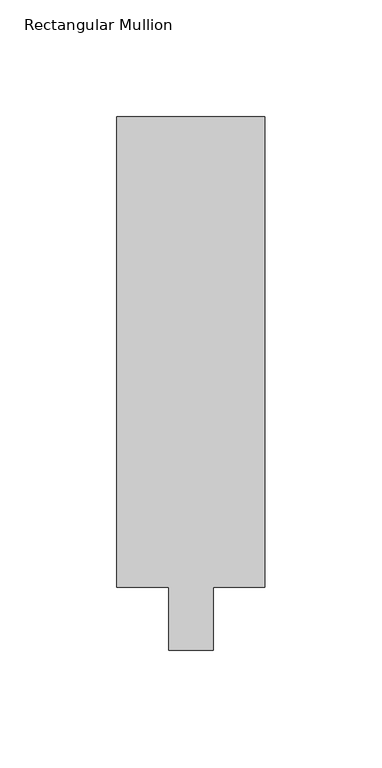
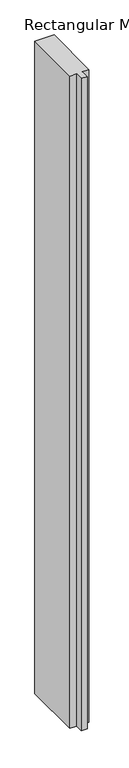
"""IFC4 building model written with IfcOpenShell, lengths in millimetres: member geometry."""

from ifc_helpers import new_model, si_unit, frame, origin, place, context, project, spatial, polyline, outline, extrude, source, transform, mapped, element, save


def rectangular_mullion_25797d0b(model_context):
    return source(origin(), model_context, "Body", "SweptSolid", [
        extrude(outline(polyline([(0.0, 228.6), (0.0, 26.9875), (-22.225, 26.9875), (-22.225, 0.0), (-41.275, 0.0), (-41.275, 26.9875), (-63.5, 26.9875), (-63.5, 228.6), (0.0, 228.6)])), frame((0.0, 0.0, -2294.1624442), z_axis=(0.0, 0.0, 1.0), x_axis=(1.0, 0.0, 0.0)), (0.0, 0.0, 1.0), 2294.1624442),
    ])


if __name__ == "__main__":
    model = new_model("IFC4")
    model_context = context("Model", 3, world=origin())
    ifc_project = project(units=[si_unit("LENGTHUNIT", "METRE", prefix="MILLI")], contexts=[model_context])
    site = spatial("IfcSite", under=ifc_project)
    building = spatial("IfcBuilding", under=site)
    placement = place(None, origin())
    rectangular_mullion_shape = rectangular_mullion_25797d0b(model_context)
    element("IfcMember", 1, ObjectType="Rectangular Mullion : 2 1/2\" x 8\" - Capless", at=placement, inside=building, context=model_context, shape_type="MappedRepresentation", body=[
        mapped(rectangular_mullion_shape, transform((0.0, 0.0, 0.0), x_axis=(1.0, 0.0, 0.0), y_axis=(0.0, 1.0, 0.0), z_axis=(0.0, 0.0, 1.0))),
    ])
    save(model, "model.ifc")
